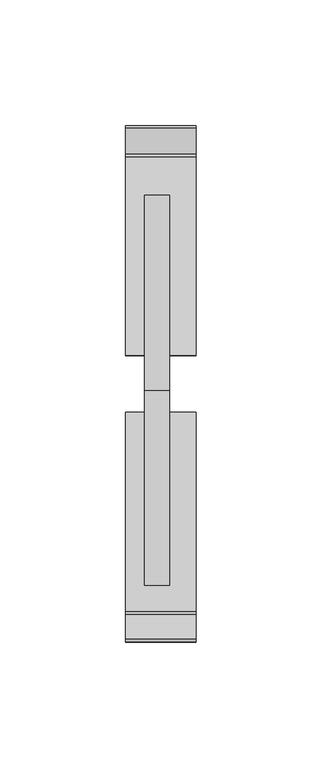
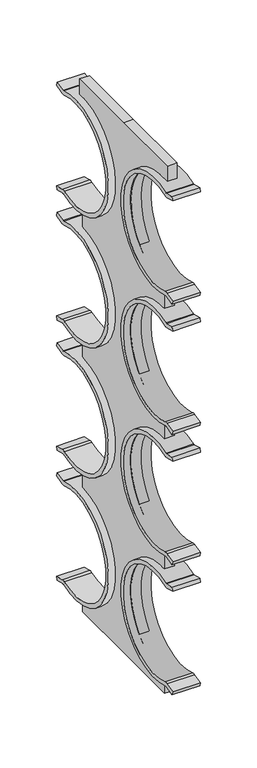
"""IFC4 building model written with IfcOpenShell, lengths in millimetres: cable carrier fitting geometry, Кластер для двустенной трубы d110 : CTA12D-M110-K02."""

import ifcopenshell
import ifcopenshell.guid

model = None  # the IFC model being written
_history = None  # IfcOwnerHistory: only IFC2X3 demands one
_inside = {}  # id of a spatial element -> (the spatial element, [elements in it])
_under = {}  # id of a project, library or spatial element -> (it, [spatial elements below it])
_declared = {}  # id of a project -> (the project, [libraries it declares])
_typed = {}  # id of a type object -> (the type object, [elements of that type])
_made_of = {}  # id of a material, layer set ... -> (it, [elements and type objects made of it])


def new_model(schema):
    """Start an empty IFC model of exactly this schema.

    Asked for "IFC4X3", IfcOpenShell would pick the latest addendum, in which some entities
    have other attributes; the version numbers below select the first issue.
    IFC2X3 requires an IfcOwnerHistory on every rooted entity: one is made here for all.
    """
    global model, _history
    if schema == "IFC4X3":
        model = ifcopenshell.file(schema_version=(4, 3, 0, 0))
    else:
        model = ifcopenshell.file(schema=schema)
    _inside.clear()
    _under.clear()
    _declared.clear()
    _typed.clear()
    _made_of.clear()
    _history = None
    if model.schema == "IFC2X3":
        org = make("IfcOrganization", Name="unknown")
        user = make(
            "IfcPersonAndOrganization",
            ThePerson=make("IfcPerson", FamilyName="unknown"),
            TheOrganization=org,
        )
        app = make(
            "IfcApplication",
            ApplicationDeveloper=org,
            Version="unknown",
            ApplicationFullName="unknown",
            ApplicationIdentifier="unknown",
        )
        _history = make(
            "IfcOwnerHistory",
            OwningUser=user,
            OwningApplication=app,
            ChangeAction="ADDED",
            CreationDate=0,
        )
    return model


def make(cls, **values):
    """One entity of the class cls with the attributes given. An attribute that is None is left unset."""
    return model.create_entity(
        cls, **{name: value for name, value in values.items() if value is not None}
    )


def rooted(cls, **values):
    """An entity with a GlobalId (a new one), such as an element, a storey or a relation."""
    return make(cls, GlobalId=ifcopenshell.guid.new(), OwnerHistory=_history, **values)


def si_unit(unit_type, name, prefix=None):
    """IfcSIUnit, for example si_unit("LENGTHUNIT", "METRE", prefix="MILLI")."""
    return make("IfcSIUnit", UnitType=unit_type, Prefix=prefix, Name=name)


def assignment(units):
    """IfcUnitAssignment: the units of a project."""
    return None if units is None else make("IfcUnitAssignment", Units=units)


def point(xyz):
    """IfcCartesianPoint."""
    return None if xyz is None else make("IfcCartesianPoint", Coordinates=xyz)


def direction(xyz):
    """IfcDirection."""
    return None if xyz is None else make("IfcDirection", DirectionRatios=xyz)


def frame(location, z_axis=None, x_axis=None):
    """IfcAxis2Placement3D, a coordinate frame: its origin and axes. An axis left out is left unset."""
    return make(
        "IfcAxis2Placement3D",
        Location=point(location),
        Axis=direction(z_axis),
        RefDirection=direction(x_axis),
    )


def frame_2d(location, x_axis=None):
    """IfcAxis2Placement2D, a coordinate frame in the plane: its origin and x axis."""
    return make(
        "IfcAxis2Placement2D", Location=point(location), RefDirection=direction(x_axis)
    )


def origin():
    """The frame at (0, 0, 0) with its axes left unset."""
    return frame((0.0, 0.0, 0.0))


def place(relative_to, where):
    """IfcLocalPlacement: puts the frame where relative to a parent placement (None: the world)."""
    return make(
        "IfcLocalPlacement", PlacementRelTo=relative_to, RelativePlacement=where
    )


def context(
    kind, dimensions, precision=None, world=None, true_north=None, identifier=None
):
    """IfcGeometricRepresentationContext, for example the 3D "Model" context."""
    return make(
        "IfcGeometricRepresentationContext",
        ContextIdentifier=identifier,
        ContextType=kind,
        CoordinateSpaceDimension=dimensions,
        Precision=precision,
        WorldCoordinateSystem=world,
        TrueNorth=true_north,
    )


def project(units=None, contexts=None):
    """IfcProject with its units and contexts."""
    return rooted(
        "IfcProject",
        Name="project",
        RepresentationContexts=contexts,
        UnitsInContext=assignment(units),
    )


def spatial(cls, under=None, at=None, **own):
    """A site, building, storey or space (cls), placed at a placement, below another one or the project."""
    s = rooted(cls, ObjectPlacement=at, **own)
    if under is not None:
        _under.setdefault(under.id(), (under, []))[1].append(s)
    return s


def polyline(points):
    """IfcPolyline through the points."""
    return make("IfcPolyline", Points=[point(p) for p in points])


def circle_curve(where, radius):
    """IfcCircle in the frame where."""
    return make("IfcCircle", Position=where, Radius=radius)


def trimmed(basis, trim1, trim2, sense, master):
    """IfcTrimmedCurve: the piece of a basis curve between two trims."""
    return make(
        "IfcTrimmedCurve",
        BasisCurve=basis,
        Trim1=trim1,
        Trim2=trim2,
        SenseAgreement=sense,
        MasterRepresentation=master,
    )


def segment(curve, same_sense, transition):
    """IfcCompositeCurveSegment."""
    return make(
        "IfcCompositeCurveSegment",
        Transition=transition,
        SameSense=same_sense,
        ParentCurve=curve,
    )


def composite_curve(segments, self_intersect=None):
    """IfcCompositeCurve: segments joined end to end."""
    return make("IfcCompositeCurve", Segments=segments, SelfIntersect=self_intersect)


def outline(outer, holes=None, kind="AREA"):
    """IfcArbitraryClosedProfileDef: a profile drawn as a closed curve; with holes, ...WithVoids."""
    if holes is None:
        return make("IfcArbitraryClosedProfileDef", ProfileType=kind, OuterCurve=outer)
    return make(
        "IfcArbitraryProfileDefWithVoids",
        ProfileType=kind,
        OuterCurve=outer,
        InnerCurves=holes,
    )


def extrude(swept, where, along, depth):
    """IfcExtrudedAreaSolid: the profile swept, set in the frame where, extruded along a direction by depth."""
    return make(
        "IfcExtrudedAreaSolid",
        SweptArea=swept,
        Position=where,
        ExtrudedDirection=direction(along),
        Depth=depth,
    )


def shape(context_of_items, identifier, shape_type, items):
    """IfcShapeRepresentation: the items that make up one representation, for example the "Body"."""
    return make(
        "IfcShapeRepresentation",
        ContextOfItems=context_of_items,
        RepresentationIdentifier=identifier,
        RepresentationType=shape_type,
        Items=items,
    )


def source(mapping_origin, context_of_items, identifier, shape_type, items):
    """IfcRepresentationMap: a shape defined once, which mapped items show again and again."""
    return make(
        "IfcRepresentationMap",
        MappingOrigin=mapping_origin,
        MappedRepresentation=shape(context_of_items, identifier, shape_type, items),
    )


def transform(
    local_origin,
    x_axis=None,
    y_axis=None,
    z_axis=None,
    scale=None,
    scale2=None,
    scale3=None,
    uniform=True,
):
    """IfcCartesianTransformationOperator3D, or its non-uniform kind. x_axis, y_axis, z_axis: its Axis1, 2, 3."""
    if uniform:
        return make(
            "IfcCartesianTransformationOperator3D",
            Axis1=direction(x_axis),
            Axis2=direction(y_axis),
            LocalOrigin=point(local_origin),
            Scale=scale,
            Axis3=direction(z_axis),
        )
    return make(
        "IfcCartesianTransformationOperator3DnonUniform",
        Axis1=direction(x_axis),
        Axis2=direction(y_axis),
        LocalOrigin=point(local_origin),
        Scale=scale,
        Axis3=direction(z_axis),
        Scale2=scale2,
        Scale3=scale3,
    )


def mapped(mapping_source, mapping_target):
    """IfcMappedItem: shows the shape of a source again, moved by a transform."""
    return make(
        "IfcMappedItem", MappingSource=mapping_source, MappingTarget=mapping_target
    )


def made_of(thing, what):
    """Note that an element or type object is made of a material, layer set ...; save() writes the relation."""
    if what is not None:
        _made_of.setdefault(what.id(), (what, []))[1].append(thing)
    return thing


def element(
    cls,
    number,
    at=None,
    inside=None,
    cuts=None,
    type_object=None,
    material=None,
    context=None,
    identifier="Body",
    shape_type=None,
    held_by="IfcProductDefinitionShape",
    body=None,
    shapes=None,
    **own,
):
    """One element of the class cls, such as IfcWall. Its Tag is "e" and its number.

    at: its placement. inside: the storey or other place that contains it. cuts: it is an
    opening in that element (IfcRelVoidsElement). A single representation is given by context,
    identifier, shape_type and body (its items); several are given by shapes. held_by: the class
    of the entity that holds the representations. save() writes the other relations.
    """
    e = rooted(cls, Tag="e%d" % number, ObjectPlacement=at, **own)
    if body is not None:
        shapes = [shape(context, identifier, shape_type, body)]
    if shapes is not None:
        e.Representation = make(held_by, Representations=shapes)
    if inside is not None:
        _inside.setdefault(inside.id(), (inside, []))[1].append(e)
    if cuts is not None:
        rooted(
            "IfcRelVoidsElement", RelatingBuildingElement=cuts, RelatedOpeningElement=e
        )
    if type_object is not None:
        _typed.setdefault(type_object.id(), (type_object, []))[1].append(e)
    return made_of(e, material)


def aggregate(whole, parts):
    """IfcRelAggregates: a whole, such as a stair, and the parts it consists of."""
    return rooted("IfcRelAggregates", RelatingObject=whole, RelatedObjects=parts)


def save(model, path):
    """Write the relations noted so far, then the file.

    IfcRelAggregates (storeys below a building ...), IfcRelContainedInSpatialStructure (elements
    in a storey), IfcRelDefinesByType, IfcRelAssociatesMaterial and IfcRelDeclares: one each for
    every whole, place, type object, material and project.
    """
    for whole, parts in _under.values():
        aggregate(whole, parts)
    for where, things in _inside.values():
        rooted(
            "IfcRelContainedInSpatialStructure",
            RelatedElements=things,
            RelatingStructure=where,
        )
    for kind, things in _typed.values():
        rooted("IfcRelDefinesByType", RelatedObjects=things, RelatingType=kind)
    for what, things in _made_of.values():
        rooted("IfcRelAssociatesMaterial", RelatedObjects=things, RelatingMaterial=what)
    for by, libraries in _declared.values():
        rooted("IfcRelDeclares", RelatingContext=by, RelatedDefinitions=libraries)
    model.write(path)


def cable_carrier_fitting_0dbc5bf7(model_context):
    return source(origin(), model_context, "Body", "SweptSolid", [
        extrude(outline(composite_curve([segment(polyline([(77.4150051, 355.012989), (77.4150051, 338.7949209)]), True, "CONTINUOUS"), segment(trimmed(circle_curve(frame_2d((72.5, 280.0)), 59.0), [point((77.4150051, 338.7949209))], [point((72.5, 221.0))], True, "CARTESIAN"), True, "CONTINUOUS"), segment(polyline([(72.5, 221.0), (72.5, 199.0)]), True, "CONTINUOUS"), segment(trimmed(circle_curve(frame_2d((72.5, 140.0)), 59.0), [point((72.5, 199.0))], [point((72.5, 81.0))], True, "CARTESIAN"), True, "CONTINUOUS"), segment(polyline([(72.5, 81.0), (72.5, 59.0)]), True, "CONTINUOUS"), segment(trimmed(circle_curve(frame_2d((72.5, 0.0)), 59.0), [point((72.5, 59.0))], [point((72.5, -59.0))], True, "CARTESIAN"), True, "CONTINUOUS"), segment(polyline([(72.5, -59.0), (72.5, -81.0)]), True, "CONTINUOUS"), segment(trimmed(circle_curve(frame_2d((72.5, -140.0)), 59.0), [point((72.5, -81.0))], [point((72.5, -199.0))], True, "CARTESIAN"), True, "CONTINUOUS"), segment(polyline([(72.5, -199.0), (72.5, -215.0), (0.0, -215.0), (-72.5, -215.0), (-72.5, -199.0)]), True, "CONTINUOUS"), segment(trimmed(circle_curve(frame_2d((-72.5, -140.0)), 59.0), [point((-72.5, -199.0))], [point((-72.5, -81.0))], True, "CARTESIAN"), True, "CONTINUOUS"), segment(polyline([(-72.5, -81.0), (-72.5, -59.0)]), True, "CONTINUOUS"), segment(trimmed(circle_curve(frame_2d((-72.5, 0.0)), 59.0), [point((-72.5, -59.0))], [point((-72.5, 59.0))], True, "CARTESIAN"), True, "CONTINUOUS"), segment(polyline([(-72.5, 59.0), (-72.5, 81.0)]), True, "CONTINUOUS"), segment(trimmed(circle_curve(frame_2d((-72.5, 140.0)), 59.0), [point((-72.5, 81.0))], [point((-72.5, 199.0))], True, "CARTESIAN"), True, "CONTINUOUS"), segment(polyline([(-72.5, 199.0), (-72.5, 221.0)]), True, "CONTINUOUS"), segment(trimmed(circle_curve(frame_2d((-72.5, 280.0)), 59.0), [point((-72.5, 221.0))], [point((-77.4150051, 338.7949209))], True, "CARTESIAN"), True, "CONTINUOUS"), segment(polyline([(-77.4150051, 338.7949209), (-77.4150051, 355.012989), (0.0, 355.012989), (77.4150051, 355.012989)]), True, "CONTINUOUS")], self_intersect=False)), frame((-5.0, 0.0, 0.0), z_axis=(1.0, 0.0, 0.0), x_axis=(0.0, 1.0, 0.0)), (0.0, 0.0, 1.0), 10.0),
        extrude(outline(composite_curve([segment(polyline([(104.0228651, 337.8788152), (105.0, 334.0), (94.9347455, 331.4644031)]), True, "CONTINUOUS"), segment(trimmed(circle_curve(frame_2d((93.4690431, 337.2826259)), 6.0), [point((94.9347455, 331.4644031))], [point((91.4065143, 331.6482693))], False, "CARTESIAN"), True, "CONTINUOUS"), segment(trimmed(circle_curve(frame_2d((72.5, 280.0)), 55.0), [point((91.4065143, 331.6482693))], [point((91.4065143, 228.3517307))], True, "CARTESIAN"), True, "CONTINUOUS"), segment(trimmed(circle_curve(frame_2d((93.4690431, 222.7173741)), 6.0), [point((91.4065143, 228.3517307))], [point((94.9347455, 228.5355969))], False, "CARTESIAN"), True, "CONTINUOUS"), segment(polyline([(94.9347455, 228.5355969), (105.0, 226.0), (104.0228651, 222.1211848), (93.9576106, 224.6567817)]), True, "CONTINUOUS"), segment(trimmed(circle_curve(frame_2d((93.4690431, 222.7173741)), 2.0), [point((93.9576106, 224.6567817))], [point((92.7815335, 224.595493))], True, "CARTESIAN"), True, "CONTINUOUS"), segment(trimmed(circle_curve(frame_2d((72.5, 280.0)), 59.0), [point((92.7815335, 224.595493))], [point((92.7815335, 335.404507))], False, "CARTESIAN"), True, "CONTINUOUS"), segment(trimmed(circle_curve(frame_2d((93.4690431, 337.2826259)), 2.0), [point((92.7815335, 335.404507))], [point((93.9576106, 335.3432183))], True, "CARTESIAN"), True, "CONTINUOUS"), segment(polyline([(93.9576106, 335.3432183), (104.0228651, 337.8788152)]), True, "CONTINUOUS")], self_intersect=False)), frame((-12.4627427, 0.0, 0.0), z_axis=(1.0, 0.0, 0.0), x_axis=(0.0, 1.0, 0.0)), (0.0, 0.0, 1.0), 28.0),
        extrude(outline(composite_curve([segment(polyline([(104.0228651, 197.8788152), (105.0, 194.0), (94.9347455, 191.4644031)]), True, "CONTINUOUS"), segment(trimmed(circle_curve(frame_2d((93.4690431, 197.2826259)), 6.0), [point((94.9347455, 191.4644031))], [point((91.4065143, 191.6482693))], False, "CARTESIAN"), True, "CONTINUOUS"), segment(trimmed(circle_curve(frame_2d((72.5, 140.0)), 55.0), [point((91.4065143, 191.6482693))], [point((91.4065143, 88.3517307))], True, "CARTESIAN"), True, "CONTINUOUS"), segment(trimmed(circle_curve(frame_2d((93.4690431, 82.7173741)), 6.0), [point((91.4065143, 88.3517307))], [point((94.9347455, 88.5355969))], False, "CARTESIAN"), True, "CONTINUOUS"), segment(polyline([(94.9347455, 88.5355969), (105.0, 86.0), (104.0228651, 82.1211848), (93.9576106, 84.6567817)]), True, "CONTINUOUS"), segment(trimmed(circle_curve(frame_2d((93.4690431, 82.7173741)), 2.0), [point((93.9576106, 84.6567817))], [point((92.7815335, 84.595493))], True, "CARTESIAN"), True, "CONTINUOUS"), segment(trimmed(circle_curve(frame_2d((72.5, 140.0)), 59.0), [point((92.7815335, 84.595493))], [point((92.7815335, 195.404507))], False, "CARTESIAN"), True, "CONTINUOUS"), segment(trimmed(circle_curve(frame_2d((93.4690431, 197.2826259)), 2.0), [point((92.7815335, 195.404507))], [point((93.9576106, 195.3432183))], True, "CARTESIAN"), True, "CONTINUOUS"), segment(polyline([(93.9576106, 195.3432183), (104.0228651, 197.8788152)]), True, "CONTINUOUS")], self_intersect=False)), frame((-12.4627427, 0.0, 0.0), z_axis=(1.0, 0.0, 0.0), x_axis=(0.0, 1.0, 0.0)), (0.0, 0.0, 1.0), 28.0),
        extrude(outline(composite_curve([segment(trimmed(circle_curve(frame_2d((93.4690431, -82.7173741)), 6.0), [point((94.9347455, -88.5355969))], [point((91.4065143, -88.3517307))], False, "CARTESIAN"), True, "CONTINUOUS"), segment(trimmed(circle_curve(frame_2d((72.5, -140.0)), 55.0), [point((91.4065143, -88.3517307))], [point((91.4065143, -191.6482693))], True, "CARTESIAN"), True, "CONTINUOUS"), segment(trimmed(circle_curve(frame_2d((93.4690431, -197.2826259)), 6.0), [point((91.4065143, -191.6482693))], [point((94.9347455, -191.4644031))], False, "CARTESIAN"), True, "CONTINUOUS"), segment(polyline([(94.9347455, -191.4644031), (105.0, -194.0), (104.0228651, -197.8788152), (93.9576106, -195.3432183)]), True, "CONTINUOUS"), segment(trimmed(circle_curve(frame_2d((93.4690431, -197.2826259)), 2.0), [point((93.9576106, -195.3432183))], [point((92.7815335, -195.404507))], True, "CARTESIAN"), True, "CONTINUOUS"), segment(trimmed(circle_curve(frame_2d((72.5, -140.0)), 59.0), [point((92.7815335, -195.404507))], [point((92.7815335, -84.595493))], False, "CARTESIAN"), True, "CONTINUOUS"), segment(trimmed(circle_curve(frame_2d((93.4690431, -82.7173741)), 2.0), [point((92.7815335, -84.595493))], [point((93.9576106, -84.6567817))], True, "CARTESIAN"), True, "CONTINUOUS"), segment(polyline([(93.9576106, -84.6567817), (104.0228651, -82.1211848), (105.0, -86.0), (94.9347455, -88.5355969)]), True, "CONTINUOUS")], self_intersect=False)), frame((-12.4627427, 0.0, 0.0), z_axis=(1.0, 0.0, 0.0), x_axis=(0.0, 1.0, 0.0)), (0.0, 0.0, 1.0), 28.0),
        extrude(outline(composite_curve([segment(trimmed(circle_curve(frame_2d((93.4690431, -57.2826259)), 2.0), [point((93.9576106, -55.3432183))], [point((92.7815335, -55.404507))], True, "CARTESIAN"), True, "CONTINUOUS"), segment(trimmed(circle_curve(frame_2d((72.5, 0.0)), 59.0), [point((92.7815335, -55.404507))], [point((92.7815335, 55.404507))], False, "CARTESIAN"), True, "CONTINUOUS"), segment(trimmed(circle_curve(frame_2d((93.4690431, 57.2826259)), 2.0), [point((92.7815335, 55.404507))], [point((93.9576106, 55.3432183))], True, "CARTESIAN"), True, "CONTINUOUS"), segment(polyline([(93.9576106, 55.3432183), (104.0228651, 57.8788152), (105.0, 54.0), (94.9347455, 51.4644031)]), True, "CONTINUOUS"), segment(trimmed(circle_curve(frame_2d((93.4690431, 57.2826259)), 6.0), [point((94.9347455, 51.4644031))], [point((91.4065143, 51.6482693))], False, "CARTESIAN"), True, "CONTINUOUS"), segment(trimmed(circle_curve(frame_2d((72.5, 0.0)), 55.0), [point((91.4065143, 51.6482693))], [point((91.4065143, -51.6482693))], True, "CARTESIAN"), True, "CONTINUOUS"), segment(trimmed(circle_curve(frame_2d((93.4690431, -57.2826259)), 6.0), [point((91.4065143, -51.6482693))], [point((94.9347455, -51.4644031))], False, "CARTESIAN"), True, "CONTINUOUS"), segment(polyline([(94.9347455, -51.4644031), (105.0, -54.0), (104.0228651, -57.8788152), (93.9576106, -55.3432183)]), True, "CONTINUOUS")], self_intersect=False)), frame((-12.4627427, 0.0, 0.0), z_axis=(1.0, 0.0, 0.0), x_axis=(0.0, 1.0, 0.0)), (0.0, 0.0, 1.0), 28.0),
        extrude(outline(composite_curve([segment(polyline([(-99.0228651, 337.8788152), (-88.9576106, 335.3432183)]), True, "CONTINUOUS"), segment(trimmed(circle_curve(frame_2d((-88.4690431, 337.2826259)), 2.0), [point((-88.9576106, 335.3432183))], [point((-87.7815335, 335.404507))], True, "CARTESIAN"), True, "CONTINUOUS"), segment(trimmed(circle_curve(frame_2d((-67.5, 280.0)), 59.0), [point((-87.7815335, 335.404507))], [point((-87.7815335, 224.595493))], False, "CARTESIAN"), True, "CONTINUOUS"), segment(trimmed(circle_curve(frame_2d((-88.4690431, 222.7173741)), 2.0), [point((-87.7815335, 224.595493))], [point((-88.9576106, 224.6567817))], True, "CARTESIAN"), True, "CONTINUOUS"), segment(polyline([(-88.9576106, 224.6567817), (-99.0228651, 222.1211848), (-100.0, 226.0), (-89.9347455, 228.5355969)]), True, "CONTINUOUS"), segment(trimmed(circle_curve(frame_2d((-88.4690431, 222.7173741)), 6.0), [point((-89.9347455, 228.5355969))], [point((-86.4065143, 228.3517307))], False, "CARTESIAN"), True, "CONTINUOUS"), segment(trimmed(circle_curve(frame_2d((-67.5, 280.0)), 55.0), [point((-86.4065143, 228.3517307))], [point((-86.4065143, 331.6482693))], True, "CARTESIAN"), True, "CONTINUOUS"), segment(trimmed(circle_curve(frame_2d((-88.4690431, 337.2826259)), 6.0), [point((-86.4065143, 331.6482693))], [point((-89.9347455, 331.4644031))], False, "CARTESIAN"), True, "CONTINUOUS"), segment(polyline([(-89.9347455, 331.4644031), (-100.0, 334.0), (-99.0228651, 337.8788152)]), True, "CONTINUOUS")], self_intersect=False)), frame((-12.4627427, 0.0, 0.0), z_axis=(1.0, 0.0, 0.0), x_axis=(0.0, 1.0, 0.0)), (0.0, 0.0, 1.0), 28.0),
        extrude(outline(composite_curve([segment(polyline([(-99.0228651, 197.8788152), (-88.9576106, 195.3432183)]), True, "CONTINUOUS"), segment(trimmed(circle_curve(frame_2d((-88.4690431, 197.2826259)), 2.0), [point((-88.9576106, 195.3432183))], [point((-87.7815335, 195.404507))], True, "CARTESIAN"), True, "CONTINUOUS"), segment(trimmed(circle_curve(frame_2d((-67.5, 140.0)), 59.0), [point((-87.7815335, 195.404507))], [point((-87.7815335, 84.595493))], False, "CARTESIAN"), True, "CONTINUOUS"), segment(trimmed(circle_curve(frame_2d((-88.4690431, 82.7173741)), 2.0), [point((-87.7815335, 84.595493))], [point((-88.9576106, 84.6567817))], True, "CARTESIAN"), True, "CONTINUOUS"), segment(polyline([(-88.9576106, 84.6567817), (-99.0228651, 82.1211848), (-100.0, 86.0), (-89.9347455, 88.5355969)]), True, "CONTINUOUS"), segment(trimmed(circle_curve(frame_2d((-88.4690431, 82.7173741)), 6.0), [point((-89.9347455, 88.5355969))], [point((-86.4065143, 88.3517307))], False, "CARTESIAN"), True, "CONTINUOUS"), segment(trimmed(circle_curve(frame_2d((-67.5, 140.0)), 55.0), [point((-86.4065143, 88.3517307))], [point((-86.4065143, 191.6482693))], True, "CARTESIAN"), True, "CONTINUOUS"), segment(trimmed(circle_curve(frame_2d((-88.4690431, 197.2826259)), 6.0), [point((-86.4065143, 191.6482693))], [point((-89.9347455, 191.4644031))], False, "CARTESIAN"), True, "CONTINUOUS"), segment(polyline([(-89.9347455, 191.4644031), (-100.0, 194.0), (-99.0228651, 197.8788152)]), True, "CONTINUOUS")], self_intersect=False)), frame((-12.4627427, 0.0, 0.0), z_axis=(1.0, 0.0, 0.0), x_axis=(0.0, 1.0, 0.0)), (0.0, 0.0, 1.0), 28.0),
        extrude(outline(composite_curve([segment(polyline([(-89.9347455, -88.5355969), (-100.0, -86.0), (-99.0228651, -82.1211848), (-88.9576106, -84.6567817)]), True, "CONTINUOUS"), segment(trimmed(circle_curve(frame_2d((-88.4690431, -82.7173741)), 2.0), [point((-88.9576106, -84.6567817))], [point((-87.7815335, -84.595493))], True, "CARTESIAN"), True, "CONTINUOUS"), segment(trimmed(circle_curve(frame_2d((-67.5, -140.0)), 59.0), [point((-87.7815335, -84.595493))], [point((-87.7815335, -195.404507))], False, "CARTESIAN"), True, "CONTINUOUS"), segment(trimmed(circle_curve(frame_2d((-88.4690431, -197.2826259)), 2.0), [point((-87.7815335, -195.404507))], [point((-88.9576106, -195.3432183))], True, "CARTESIAN"), True, "CONTINUOUS"), segment(polyline([(-88.9576106, -195.3432183), (-99.0228651, -197.8788152), (-100.0, -194.0), (-89.9347455, -191.4644031)]), True, "CONTINUOUS"), segment(trimmed(circle_curve(frame_2d((-88.4690431, -197.2826259)), 6.0), [point((-89.9347455, -191.4644031))], [point((-86.4065143, -191.6482693))], False, "CARTESIAN"), True, "CONTINUOUS"), segment(trimmed(circle_curve(frame_2d((-67.5, -140.0)), 55.0), [point((-86.4065143, -191.6482693))], [point((-86.4065143, -88.3517307))], True, "CARTESIAN"), True, "CONTINUOUS"), segment(trimmed(circle_curve(frame_2d((-88.4690431, -82.7173741)), 6.0), [point((-86.4065143, -88.3517307))], [point((-89.9347455, -88.5355969))], False, "CARTESIAN"), True, "CONTINUOUS")], self_intersect=False)), frame((-12.4627427, 0.0, 0.0), z_axis=(1.0, 0.0, 0.0), x_axis=(0.0, 1.0, 0.0)), (0.0, 0.0, 1.0), 28.0),
        extrude(outline(composite_curve([segment(polyline([(-88.9576106, -55.3432183), (-99.0228651, -57.8788152), (-100.0, -54.0), (-89.9347455, -51.4644031)]), True, "CONTINUOUS"), segment(trimmed(circle_curve(frame_2d((-88.4690431, -57.2826259)), 6.0), [point((-89.9347455, -51.4644031))], [point((-86.4065143, -51.6482693))], False, "CARTESIAN"), True, "CONTINUOUS"), segment(trimmed(circle_curve(frame_2d((-67.5, 0.0)), 55.0), [point((-86.4065143, -51.6482693))], [point((-86.4065143, 51.6482693))], True, "CARTESIAN"), True, "CONTINUOUS"), segment(trimmed(circle_curve(frame_2d((-88.4690431, 57.2826259)), 6.0), [point((-86.4065143, 51.6482693))], [point((-89.9347455, 51.4644031))], False, "CARTESIAN"), True, "CONTINUOUS"), segment(polyline([(-89.9347455, 51.4644031), (-100.0, 54.0), (-99.0228651, 57.8788152), (-88.9576106, 55.3432183)]), True, "CONTINUOUS"), segment(trimmed(circle_curve(frame_2d((-88.4690431, 57.2826259)), 2.0), [point((-88.9576106, 55.3432183))], [point((-87.7815335, 55.404507))], True, "CARTESIAN"), True, "CONTINUOUS"), segment(trimmed(circle_curve(frame_2d((-67.5, 0.0)), 59.0), [point((-87.7815335, 55.404507))], [point((-87.7815335, -55.404507))], False, "CARTESIAN"), True, "CONTINUOUS"), segment(trimmed(circle_curve(frame_2d((-88.4690431, -57.2826259)), 2.0), [point((-87.7815335, -55.404507))], [point((-88.9576106, -55.3432183))], True, "CARTESIAN"), True, "CONTINUOUS")], self_intersect=False)), frame((-12.4627427, 0.0, 0.0), z_axis=(1.0, 0.0, 0.0), x_axis=(0.0, 1.0, 0.0)), (0.0, 0.0, 1.0), 28.0),
    ])


if __name__ == "__main__":
    model = new_model("IFC4")
    model_context = context("Model", 3, world=origin())
    ifc_project = project(units=[si_unit("LENGTHUNIT", "METRE", prefix="MILLI")], contexts=[model_context])
    site = spatial("IfcSite", under=ifc_project)
    building = spatial("IfcBuilding", under=site)
    placement = place(None, origin())
    cable_carrier_fitting_shape = cable_carrier_fitting_0dbc5bf7(model_context)
    element("IfcCableCarrierFitting", 1, ObjectType="Кластер для двустенной трубы d110 : CTA12D-M110-K02", at=placement, inside=building, context=model_context, shape_type="MappedRepresentation", body=[
        mapped(cable_carrier_fitting_shape, transform((0.0, 0.0, 0.0), x_axis=(1.0, 0.0, 0.0), y_axis=(0.0, 1.0, 0.0), z_axis=(0.0, 0.0, 1.0))),
    ])
    save(model, "model.ifc")
